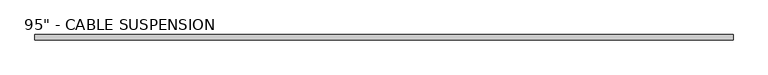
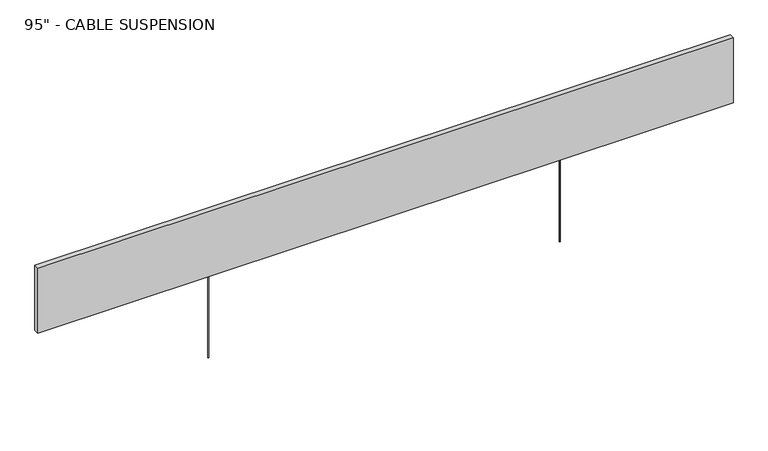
"""IFC4 building model written with IfcOpenShell, lengths in millimetres: proxy geometry."""

from ifc_helpers import new_model, si_unit, point, frame, frame_2d, origin, origin_with_axes, place, context, project, spatial, polyline, circle_curve, trimmed, segment, composite_curve, outline, extrude, source, transform, mapped, element, save


def proxy_cfbe7a46(model_context):
    return source(origin(), model_context, "Body", "SweptSolid", [
        extrude(outline(composite_curve([segment(trimmed(circle_curve(frame_2d((-609.6, 0.0)), 1.5400297), [point((-611.1400297, 0.0))], [point((-608.0599703, 0.0))], False, "CARTESIAN"), True, "CONTINUOUS"), segment(trimmed(circle_curve(frame_2d((-609.6, 0.0)), 1.5400297), [point((-608.0599703, 0.0))], [point((-611.1400297, 0.0))], False, "CARTESIAN"), True, "CONTINUOUS")], self_intersect=False)), origin_with_axes(), (0.0, 0.0, 1.0), 313.53125),
        extrude(outline(composite_curve([segment(trimmed(circle_curve(frame_2d((609.6, 0.0)), 1.5400297), [point((608.0599703, 0.0))], [point((611.1400297, 0.0))], False, "CARTESIAN"), True, "CONTINUOUS"), segment(trimmed(circle_curve(frame_2d((609.6, 0.0)), 1.5400297), [point((611.1400297, 0.0))], [point((608.0599703, 0.0))], False, "CARTESIAN"), True, "CONTINUOUS")], self_intersect=False)), origin_with_axes(), (0.0, 0.0, 1.0), 313.53125),
        extrude(outline(polyline([(-1206.5, -9.017), (-1206.5, 9.017), (1206.5, 9.017), (1206.5, -9.017), (-1206.5, -9.017)])), frame((0.0, 0.0, 304.8), z_axis=(0.0, 0.0, 1.0), x_axis=(1.0, 0.0, 0.0)), (0.0, 0.0, 1.0), 238.252),
    ])


if __name__ == "__main__":
    model = new_model("IFC4")
    model_context = context("Model", 3, world=origin())
    ifc_project = project(units=[si_unit("LENGTHUNIT", "METRE", prefix="MILLI")], contexts=[model_context])
    site = spatial("IfcSite", under=ifc_project)
    building = spatial("IfcBuilding", under=site)
    placement = place(None, origin())
    proxy_shape = proxy_cfbe7a46(model_context)
    element("IfcBuildingElementProxy", 1, Name="SE_TIMBER BAFFLE_SINGLE_FB_TURF : 95\" - CABLE SUSPENSION", ObjectType="SE_TIMBER BAFFLE_SINGLE_FB_TURF : 95\" - CABLE SUSPENSION", at=placement, inside=building, context=model_context, shape_type="MappedRepresentation", body=[
        mapped(proxy_shape, transform((0.0, 0.0, 0.0), x_axis=(1.0, 0.0, 0.0), y_axis=(0.0, 1.0, 0.0), z_axis=(0.0, 0.0, 1.0))),
    ])
    save(model, "model.ifc")
